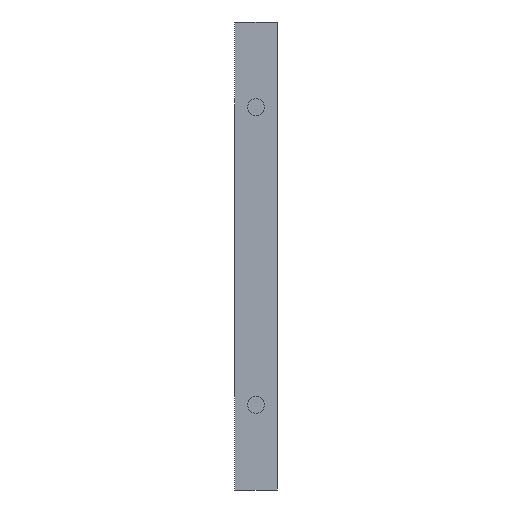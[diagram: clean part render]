
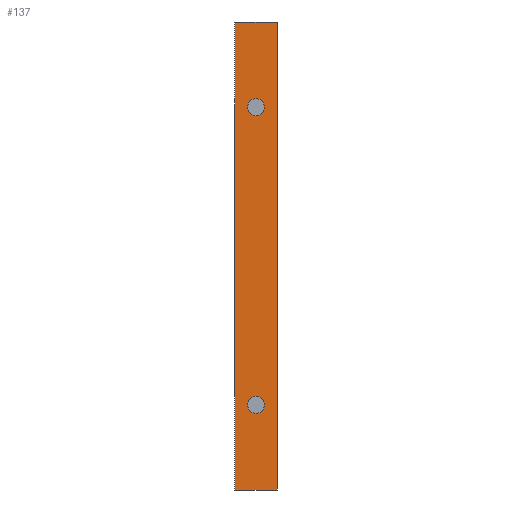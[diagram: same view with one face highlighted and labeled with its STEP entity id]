
A CAD part, front view. The second image highlights one B-rep face of the part: STEP entity #137.
In plain terms, the highlighted planar face has unit normal (0, -1, 0).
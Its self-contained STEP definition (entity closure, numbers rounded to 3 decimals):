
#21 = EDGE_CURVE('',#22,#24,#26,.T.);
#22 = VERTEX_POINT('',#23);
#23 = CARTESIAN_POINT('',(0.,0.,110.));
#24 = VERTEX_POINT('',#25);
#25 = CARTESIAN_POINT('',(10.,0.,110.));
#26 = SURFACE_CURVE('',#27,(#31,#43),.PCURVE_S1.);
#27 = LINE('',#28,#29);
#28 = CARTESIAN_POINT('',(0.,0.,110.));
#29 = VECTOR('',#30,1.);
#30 = DIRECTION('',(1.,0.,0.));
#31 = PCURVE('',#32,#37);
#32 = PLANE('',#33);
#33 = AXIS2_PLACEMENT_3D('',#34,#35,#36);
#34 = CARTESIAN_POINT('',(0.,0.,110.));
#35 = DIRECTION('',(0.,0.,1.));
#36 = DIRECTION('',(0.,1.,0.));
#37 = DEFINITIONAL_REPRESENTATION('',(#38),#42);
#38 = LINE('',#39,#40);
#39 = CARTESIAN_POINT('',(0.,0.));
#40 = VECTOR('',#41,1.);
#41 = DIRECTION('',(0.,-1.));
#42 = ( GEOMETRIC_REPRESENTATION_CONTEXT(2) 
PARAMETRIC_REPRESENTATION_CONTEXT() REPRESENTATION_CONTEXT('2D SPACE',''
  ) );
#43 = PCURVE('',#44,#49);
#44 = PLANE('',#45);
#45 = AXIS2_PLACEMENT_3D('',#46,#47,#48);
#46 = CARTESIAN_POINT('',(0.,0.,0.));
#47 = DIRECTION('',(0.,-1.,0.));
#48 = DIRECTION('',(0.,0.,1.));
#49 = DEFINITIONAL_REPRESENTATION('',(#50),#54);
#50 = LINE('',#51,#52);
#51 = CARTESIAN_POINT('',(110.,0.));
#52 = VECTOR('',#53,1.);
#53 = DIRECTION('',(0.,-1.));
#54 = ( GEOMETRIC_REPRESENTATION_CONTEXT(2) 
PARAMETRIC_REPRESENTATION_CONTEXT() REPRESENTATION_CONTEXT('2D SPACE',''
  ) );
#72 = PLANE('',#73);
#73 = AXIS2_PLACEMENT_3D('',#74,#75,#76);
#74 = CARTESIAN_POINT('',(10.,137.5,55.));
#75 = DIRECTION('',(-1.,0.,0.));
#76 = DIRECTION('',(0.,0.,-1.));
#126 = PLANE('',#127);
#127 = AXIS2_PLACEMENT_3D('',#128,#129,#130);
#128 = CARTESIAN_POINT('',(0.,137.5,55.));
#129 = DIRECTION('',(-1.,0.,0.));
#130 = DIRECTION('',(0.,0.,-1.));
#137 = ADVANCED_FACE('',(#138,#213,#244),#44,.T.);
#138 = FACE_BOUND('',#139,.T.);
#139 = EDGE_LOOP('',(#140,#170,#191,#192));
#140 = ORIENTED_EDGE('',*,*,#141,.T.);
#141 = EDGE_CURVE('',#142,#144,#146,.T.);
#142 = VERTEX_POINT('',#143);
#143 = CARTESIAN_POINT('',(0.,0.,0.));
#144 = VERTEX_POINT('',#145);
#145 = CARTESIAN_POINT('',(10.,0.,0.));
#146 = SURFACE_CURVE('',#147,(#151,#158),.PCURVE_S1.);
#147 = LINE('',#148,#149);
#148 = CARTESIAN_POINT('',(0.,0.,0.));
#149 = VECTOR('',#150,1.);
#150 = DIRECTION('',(1.,0.,0.));
#151 = PCURVE('',#44,#152);
#152 = DEFINITIONAL_REPRESENTATION('',(#153),#157);
#153 = LINE('',#154,#155);
#154 = CARTESIAN_POINT('',(0.,0.));
#155 = VECTOR('',#156,1.);
#156 = DIRECTION('',(0.,-1.));
#157 = ( GEOMETRIC_REPRESENTATION_CONTEXT(2) 
PARAMETRIC_REPRESENTATION_CONTEXT() REPRESENTATION_CONTEXT('2D SPACE',''
  ) );
#158 = PCURVE('',#159,#164);
#159 = PLANE('',#160);
#160 = AXIS2_PLACEMENT_3D('',#161,#162,#163);
#161 = CARTESIAN_POINT('',(0.,275.,0.));
#162 = DIRECTION('',(0.,0.,-1.));
#163 = DIRECTION('',(0.,-1.,0.));
#164 = DEFINITIONAL_REPRESENTATION('',(#165),#169);
#165 = LINE('',#166,#167);
#166 = CARTESIAN_POINT('',(275.,0.));
#167 = VECTOR('',#168,1.);
#168 = DIRECTION('',(0.,-1.));
#169 = ( GEOMETRIC_REPRESENTATION_CONTEXT(2) 
PARAMETRIC_REPRESENTATION_CONTEXT() REPRESENTATION_CONTEXT('2D SPACE',''
  ) );
#170 = ORIENTED_EDGE('',*,*,#171,.T.);
#171 = EDGE_CURVE('',#144,#24,#172,.T.);
#172 = SURFACE_CURVE('',#173,(#177,#184),.PCURVE_S1.);
#173 = LINE('',#174,#175);
#174 = CARTESIAN_POINT('',(10.,0.,0.));
#175 = VECTOR('',#176,1.);
#176 = DIRECTION('',(0.,0.,1.));
#177 = PCURVE('',#44,#178);
#178 = DEFINITIONAL_REPRESENTATION('',(#179),#183);
#179 = LINE('',#180,#181);
#180 = CARTESIAN_POINT('',(0.,-10.));
#181 = VECTOR('',#182,1.);
#182 = DIRECTION('',(1.,0.));
#183 = ( GEOMETRIC_REPRESENTATION_CONTEXT(2) 
PARAMETRIC_REPRESENTATION_CONTEXT() REPRESENTATION_CONTEXT('2D SPACE',''
  ) );
#184 = PCURVE('',#72,#185);
#185 = DEFINITIONAL_REPRESENTATION('',(#186),#190);
#186 = LINE('',#187,#188);
#187 = CARTESIAN_POINT('',(55.,137.5));
#188 = VECTOR('',#189,1.);
#189 = DIRECTION('',(-1.,0.));
#190 = ( GEOMETRIC_REPRESENTATION_CONTEXT(2) 
PARAMETRIC_REPRESENTATION_CONTEXT() REPRESENTATION_CONTEXT('2D SPACE',''
  ) );
#191 = ORIENTED_EDGE('',*,*,#21,.F.);
#192 = ORIENTED_EDGE('',*,*,#193,.F.);
#193 = EDGE_CURVE('',#142,#22,#194,.T.);
#194 = SURFACE_CURVE('',#195,(#199,#206),.PCURVE_S1.);
#195 = LINE('',#196,#197);
#196 = CARTESIAN_POINT('',(0.,0.,0.));
#197 = VECTOR('',#198,1.);
#198 = DIRECTION('',(0.,0.,1.));
#199 = PCURVE('',#44,#200);
#200 = DEFINITIONAL_REPRESENTATION('',(#201),#205);
#201 = LINE('',#202,#203);
#202 = CARTESIAN_POINT('',(0.,0.));
#203 = VECTOR('',#204,1.);
#204 = DIRECTION('',(1.,0.));
#205 = ( GEOMETRIC_REPRESENTATION_CONTEXT(2) 
PARAMETRIC_REPRESENTATION_CONTEXT() REPRESENTATION_CONTEXT('2D SPACE',''
  ) );
#206 = PCURVE('',#126,#207);
#207 = DEFINITIONAL_REPRESENTATION('',(#208),#212);
#208 = LINE('',#209,#210);
#209 = CARTESIAN_POINT('',(55.,137.5));
#210 = VECTOR('',#211,1.);
#211 = DIRECTION('',(-1.,0.));
#212 = ( GEOMETRIC_REPRESENTATION_CONTEXT(2) 
PARAMETRIC_REPRESENTATION_CONTEXT() REPRESENTATION_CONTEXT('2D SPACE',''
  ) );
#213 = FACE_BOUND('',#214,.T.);
#214 = EDGE_LOOP('',(#215));
#215 = ORIENTED_EDGE('',*,*,#216,.F.);
#216 = EDGE_CURVE('',#217,#217,#219,.T.);
#217 = VERTEX_POINT('',#218);
#218 = CARTESIAN_POINT('',(5.,0.,88.));
#219 = SURFACE_CURVE('',#220,(#225,#232),.PCURVE_S1.);
#220 = CIRCLE('',#221,2.);
#221 = AXIS2_PLACEMENT_3D('',#222,#223,#224);
#222 = CARTESIAN_POINT('',(5.,0.,90.));
#223 = DIRECTION('',(0.,-1.,0.));
#224 = DIRECTION('',(0.,0.,-1.));
#225 = PCURVE('',#44,#226);
#226 = DEFINITIONAL_REPRESENTATION('',(#227),#231);
#227 = CIRCLE('',#228,2.);
#228 = AXIS2_PLACEMENT_2D('',#229,#230);
#229 = CARTESIAN_POINT('',(90.,-5.));
#230 = DIRECTION('',(-1.,0.));
#231 = ( GEOMETRIC_REPRESENTATION_CONTEXT(2) 
PARAMETRIC_REPRESENTATION_CONTEXT() REPRESENTATION_CONTEXT('2D SPACE',''
  ) );
#232 = PCURVE('',#233,#238);
#233 = CYLINDRICAL_SURFACE('',#234,2.);
#234 = AXIS2_PLACEMENT_3D('',#235,#236,#237);
#235 = CARTESIAN_POINT('',(5.,0.,90.));
#236 = DIRECTION('',(0.,-1.,0.));
#237 = DIRECTION('',(0.,0.,-1.));
#238 = DEFINITIONAL_REPRESENTATION('',(#239),#243);
#239 = LINE('',#240,#241);
#240 = CARTESIAN_POINT('',(0.,0.));
#241 = VECTOR('',#242,1.);
#242 = DIRECTION('',(1.,0.));
#243 = ( GEOMETRIC_REPRESENTATION_CONTEXT(2) 
PARAMETRIC_REPRESENTATION_CONTEXT() REPRESENTATION_CONTEXT('2D SPACE',''
  ) );
#244 = FACE_BOUND('',#245,.T.);
#245 = EDGE_LOOP('',(#246));
#246 = ORIENTED_EDGE('',*,*,#247,.F.);
#247 = EDGE_CURVE('',#248,#248,#250,.T.);
#248 = VERTEX_POINT('',#249);
#249 = CARTESIAN_POINT('',(5.,0.,18.));
#250 = SURFACE_CURVE('',#251,(#256,#263),.PCURVE_S1.);
#251 = CIRCLE('',#252,2.);
#252 = AXIS2_PLACEMENT_3D('',#253,#254,#255);
#253 = CARTESIAN_POINT('',(5.,0.,20.));
#254 = DIRECTION('',(0.,-1.,0.));
#255 = DIRECTION('',(0.,0.,-1.));
#256 = PCURVE('',#44,#257);
#257 = DEFINITIONAL_REPRESENTATION('',(#258),#262);
#258 = CIRCLE('',#259,2.);
#259 = AXIS2_PLACEMENT_2D('',#260,#261);
#260 = CARTESIAN_POINT('',(20.,-5.));
#261 = DIRECTION('',(-1.,0.));
#262 = ( GEOMETRIC_REPRESENTATION_CONTEXT(2) 
PARAMETRIC_REPRESENTATION_CONTEXT() REPRESENTATION_CONTEXT('2D SPACE',''
  ) );
#263 = PCURVE('',#264,#269);
#264 = CYLINDRICAL_SURFACE('',#265,2.);
#265 = AXIS2_PLACEMENT_3D('',#266,#267,#268);
#266 = CARTESIAN_POINT('',(5.,0.,20.));
#267 = DIRECTION('',(0.,-1.,0.));
#268 = DIRECTION('',(0.,0.,-1.));
#269 = DEFINITIONAL_REPRESENTATION('',(#270),#274);
#270 = LINE('',#271,#272);
#271 = CARTESIAN_POINT('',(0.,0.));
#272 = VECTOR('',#273,1.);
#273 = DIRECTION('',(1.,0.));
#274 = ( GEOMETRIC_REPRESENTATION_CONTEXT(2) 
PARAMETRIC_REPRESENTATION_CONTEXT() REPRESENTATION_CONTEXT('2D SPACE',''
  ) );
